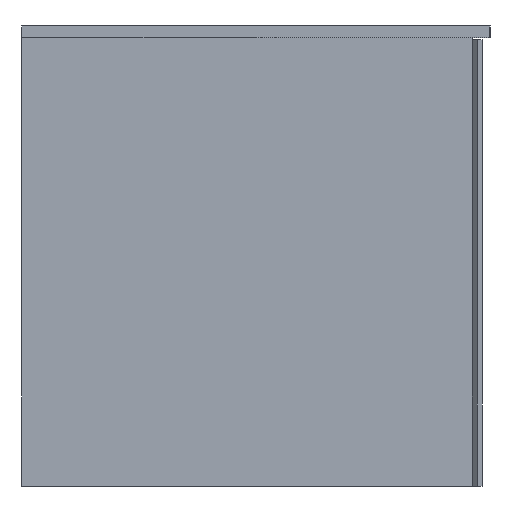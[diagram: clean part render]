
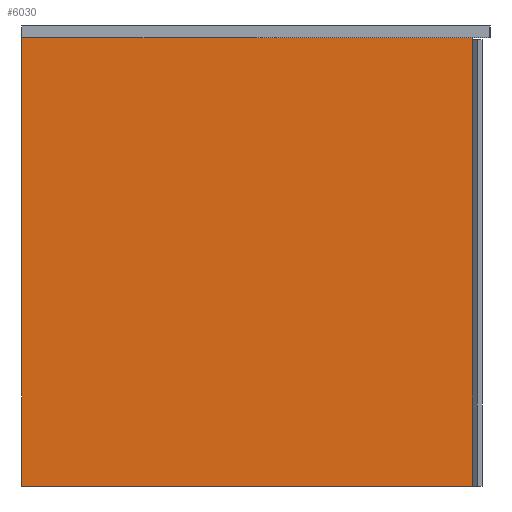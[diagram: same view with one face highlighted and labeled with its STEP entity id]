
A CAD part, left-side view. The second image highlights one B-rep face of the part: STEP entity #6030.
In plain terms, the highlighted planar face has unit normal (-1, 0, 0).
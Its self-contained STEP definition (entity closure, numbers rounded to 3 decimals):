
#114 = DIRECTION ( 'NONE',  ( 0., 1., 0. ) ) ;
#176 = VERTEX_POINT ( 'NONE', #8904 ) ;
#288 = ORIENTED_EDGE ( 'NONE', *, *, #8268, .T. ) ;
#378 = DIRECTION ( 'NONE',  ( 0., -1., 0. ) ) ;
#422 = PLANE ( 'NONE',  #523 ) ;
#523 = AXIS2_PLACEMENT_3D ( 'NONE', #6097, #10123, #9294 ) ;
#1115 = VECTOR ( 'NONE', #114, 1000. ) ;
#1630 = EDGE_CURVE ( 'NONE', #4818, #4870, #2434, .T. ) ;
#1802 = CARTESIAN_POINT ( 'NONE',  ( 14927.281, 19069.802, -19023.136 ) ) ;
#2127 = DIRECTION ( 'NONE',  ( 0., 0., 1. ) ) ;
#2259 = VERTEX_POINT ( 'NONE', #1802 ) ;
#2434 = LINE ( 'NONE', #9599, #1115 ) ;
#2646 = CARTESIAN_POINT ( 'NONE',  ( 14927.281, 19069.802, -18573.136 ) ) ;
#2849 = LINE ( 'NONE', #3634, #9530 ) ;
#3326 = VECTOR ( 'NONE', #8335, 1000. ) ;
#3477 = CARTESIAN_POINT ( 'NONE',  ( 14927.281, 19069.802, -19023.136 ) ) ;
#3538 = ORIENTED_EDGE ( 'NONE', *, *, #8770, .T. ) ;
#3634 = CARTESIAN_POINT ( 'NONE',  ( 14927.281, 19069.802, -19023.136 ) ) ;
#3691 = FACE_OUTER_BOUND ( 'NONE', #7448, .T. ) ;
#4482 = CARTESIAN_POINT ( 'NONE',  ( 14927.281, 19521.802, -18573.136 ) ) ;
#4818 = VERTEX_POINT ( 'NONE', #2646 ) ;
#4870 = VERTEX_POINT ( 'NONE', #4482 ) ;
#4902 = VECTOR ( 'NONE', #378, 1000. ) ;
#5289 = ORIENTED_EDGE ( 'NONE', *, *, #6036, .T. ) ;
#6030 = ADVANCED_FACE ( 'NONE', ( #3691 ), #422, .T. ) ;
#6036 = EDGE_CURVE ( 'NONE', #4870, #176, #7773, .T. ) ;
#6097 = CARTESIAN_POINT ( 'NONE',  ( 14927.281, 19069.802, -19023.136 ) ) ;
#6616 = LINE ( 'NONE', #3477, #4902 ) ;
#7082 = ORIENTED_EDGE ( 'NONE', *, *, #1630, .T. ) ;
#7448 = EDGE_LOOP ( 'NONE', ( #5289, #3538, #288, #7082 ) ) ;
#7773 = LINE ( 'NONE', #9201, #3326 ) ;
#8268 = EDGE_CURVE ( 'NONE', #2259, #4818, #2849, .T. ) ;
#8335 = DIRECTION ( 'NONE',  ( 0., 0., -1. ) ) ;
#8770 = EDGE_CURVE ( 'NONE', #176, #2259, #6616, .T. ) ;
#8904 = CARTESIAN_POINT ( 'NONE',  ( 14927.281, 19521.802, -19023.136 ) ) ;
#9201 = CARTESIAN_POINT ( 'NONE',  ( 14927.281, 19521.802, -19023.136 ) ) ;
#9294 = DIRECTION ( 'NONE',  ( 0., 0., 1. ) ) ;
#9530 = VECTOR ( 'NONE', #2127, 1000. ) ;
#9599 = CARTESIAN_POINT ( 'NONE',  ( 14927.281, 19069.802, -18573.136 ) ) ;
#10123 = DIRECTION ( 'NONE',  ( -1., 0., 0. ) ) ;
